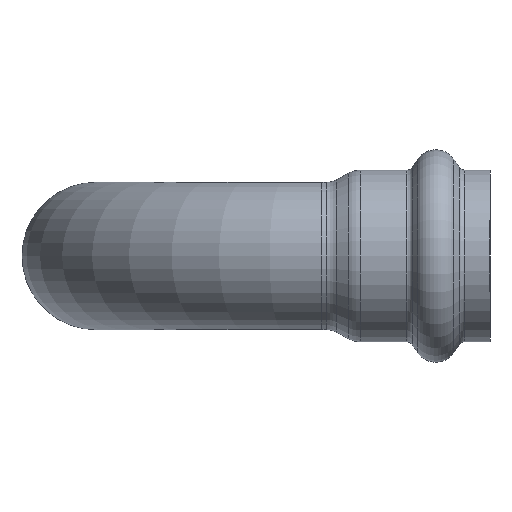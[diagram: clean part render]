
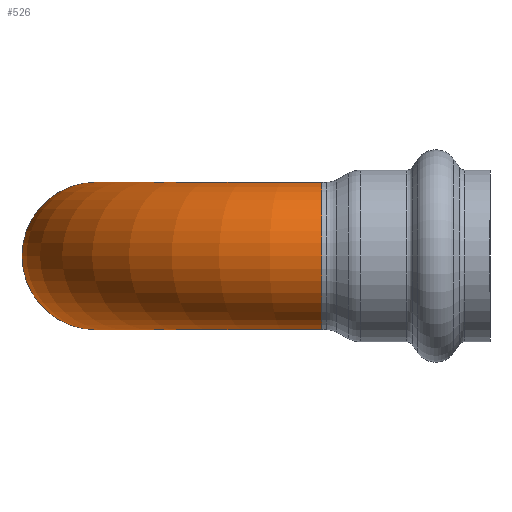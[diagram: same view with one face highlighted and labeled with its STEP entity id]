
A CAD part, left-side view. The second image highlights one B-rep face of the part: STEP entity #526.
In plain terms, the highlighted toroidal (fillet/blend) face has major radius 51.232 mm and minor radius 16.701 mm.
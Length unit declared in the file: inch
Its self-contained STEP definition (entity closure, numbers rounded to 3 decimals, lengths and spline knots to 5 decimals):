
#94=FACE_OUTER_BOUND('',#118,.T.);
#118=EDGE_LOOP('',(#359,#360,#361,#362,#363,#364));
#148=CIRCLE('',#576,0.6575);
#149=CIRCLE('',#577,1.3595);
#150=CIRCLE('',#578,0.6575);
#151=CIRCLE('',#579,0.6575);
#152=CIRCLE('',#580,0.6575);
#215=VERTEX_POINT('',#912);
#216=VERTEX_POINT('',#913);
#217=VERTEX_POINT('',#915);
#218=VERTEX_POINT('',#917);
#276=EDGE_CURVE('',#215,#216,#148,.T.);
#277=EDGE_CURVE('',#216,#217,#149,.T.);
#278=EDGE_CURVE('',#217,#218,#150,.T.);
#279=EDGE_CURVE('',#218,#217,#151,.T.);
#280=EDGE_CURVE('',#216,#215,#152,.T.);
#359=ORIENTED_EDGE('',*,*,#276,.T.);
#360=ORIENTED_EDGE('',*,*,#277,.T.);
#361=ORIENTED_EDGE('',*,*,#278,.T.);
#362=ORIENTED_EDGE('',*,*,#279,.T.);
#363=ORIENTED_EDGE('',*,*,#277,.F.);
#364=ORIENTED_EDGE('',*,*,#280,.T.);
#518=TOROIDAL_SURFACE('',#575,2.017,0.6575);
#526=ADVANCED_FACE('',(#94),#518,.T.);
#575=AXIS2_PLACEMENT_3D('',#911,#688,#689);
#576=AXIS2_PLACEMENT_3D('',#914,#690,#691);
#577=AXIS2_PLACEMENT_3D('',#916,#692,#693);
#578=AXIS2_PLACEMENT_3D('',#918,#694,#695);
#579=AXIS2_PLACEMENT_3D('',#919,#696,#697);
#580=AXIS2_PLACEMENT_3D('',#920,#698,#699);
#688=DIRECTION('center_axis',(0.,0.,1.));
#689=DIRECTION('ref_axis',(1.,0.,0.));
#690=DIRECTION('center_axis',(0.,1.,0.));
#691=DIRECTION('ref_axis',(1.,0.,0.));
#692=DIRECTION('center_axis',(0.,0.,-1.));
#693=DIRECTION('ref_axis',(1.,0.,0.));
#694=DIRECTION('center_axis',(-1.,0.,0.));
#695=DIRECTION('ref_axis',(0.,0.,-1.));
#696=DIRECTION('center_axis',(-1.,0.,0.));
#697=DIRECTION('ref_axis',(0.,0.,-1.));
#698=DIRECTION('center_axis',(0.,1.,0.));
#699=DIRECTION('ref_axis',(1.,0.,0.));
#911=CARTESIAN_POINT('Origin',(2.017,-2.017,0.));
#912=CARTESIAN_POINT('',(0.,-2.017,0.6575));
#913=CARTESIAN_POINT('',(0.6575,-2.017,0.));
#914=CARTESIAN_POINT('Origin',(0.,-2.017,0.));
#915=CARTESIAN_POINT('',(2.017,-0.6575,0.));
#916=CARTESIAN_POINT('Origin',(2.017,-2.017,0.));
#917=CARTESIAN_POINT('',(2.017,0.,0.6575));
#918=CARTESIAN_POINT('Origin',(2.017,0.,0.));
#919=CARTESIAN_POINT('Origin',(2.017,0.,0.));
#920=CARTESIAN_POINT('Origin',(0.,-2.017,0.));
